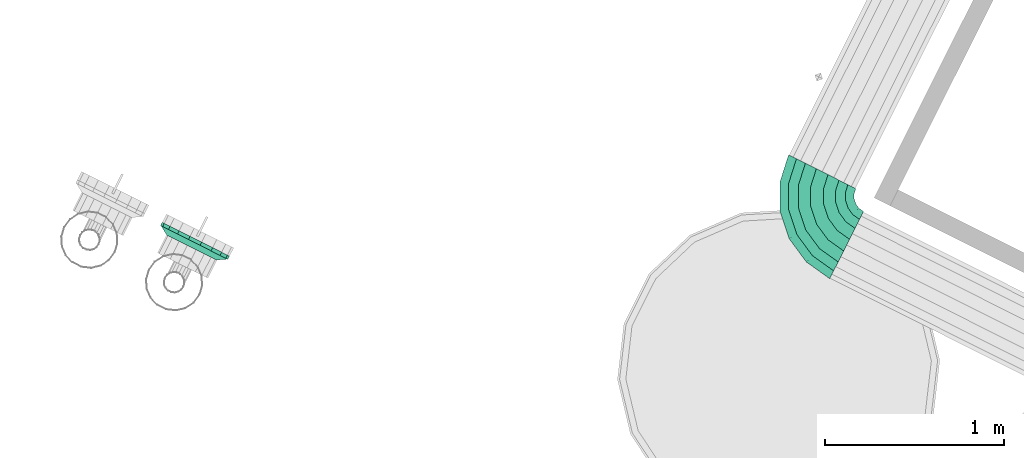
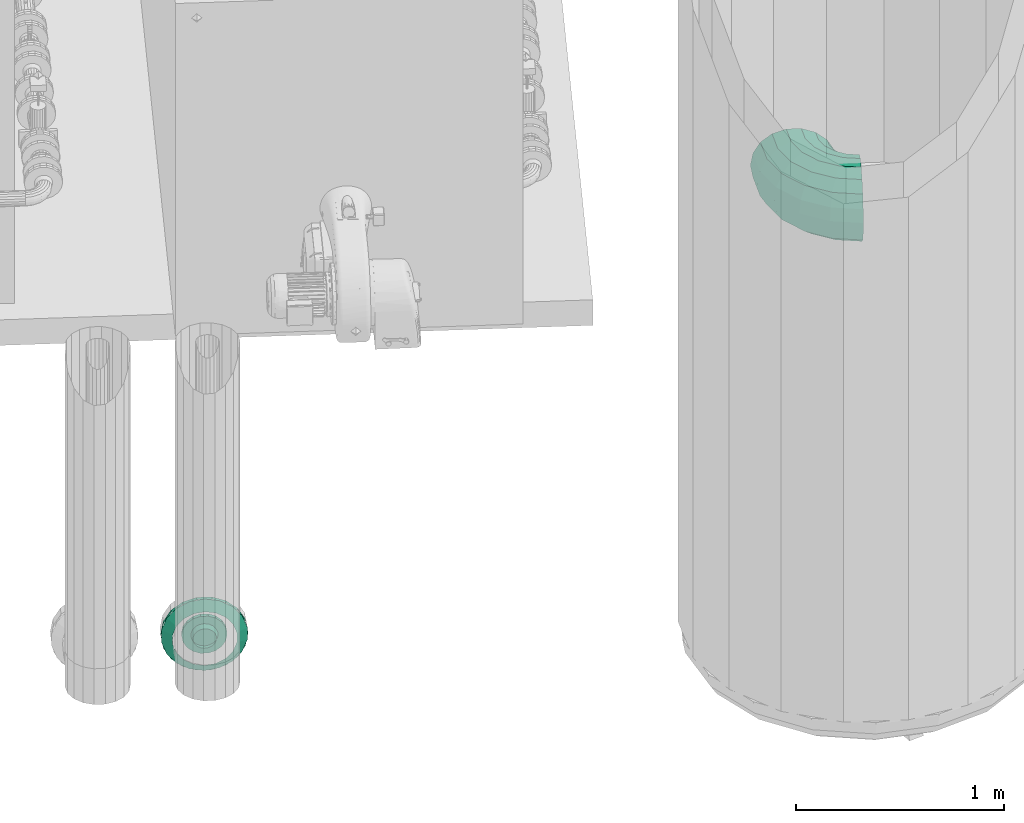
# One storey, part 41 of 206: 1 flow fitting, 1 flow segment.
"""IFC2X3 building model written with IfcOpenShell, lengths in metres."""

from ifc_helpers import new_model, si_unit, derived_unit, direction, frame, origin, place, context, subcontext, project, spatial, face_set, surface_model, source, transform, mapped, material, type_object, type_shapes, element, save


model = new_model("IFC2X3")

# Units and contexts
model_context = context("Model", 3, precision=5.2338327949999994e-05, world=origin(), true_north=direction((0.0, 1.0)))
body_context = subcontext(model_context, "Body", "Model", "MODEL_VIEW")
ifc_project = project(units=[si_unit("LENGTHUNIT", "METRE"), si_unit("AREAUNIT", "SQUARE_METRE"), si_unit("VOLUMEUNIT", "CUBIC_METRE"), si_unit("MASSUNIT", "GRAM", prefix="KILO"), si_unit("PLANEANGLEUNIT", "RADIAN"), derived_unit("THERMALTRANSMITTANCEUNIT", [(si_unit("MASSUNIT", "GRAM", prefix="KILO"), 1), (si_unit("THERMODYNAMICTEMPERATUREUNIT", "KELVIN"), -1), (si_unit("TIMEUNIT", "SECOND"), -3)])], contexts=[model_context])

# Site, building, storey
site_placement = place(None, frame((0.0, 0.0, 0.0), z_axis=(0.0, 0.0, 1.0), x_axis=(0.8939966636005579, -0.4480736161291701, 0.0)))
site = spatial("IfcSite", under=ifc_project, at=site_placement, Name="Default", CompositionType="ELEMENT")
building_placement = place(site_placement, origin())
building = spatial("IfcBuilding", under=site, at=building_placement, CompositionType="ELEMENT")
storey_placement = place(building_placement, origin())
storey = spatial("IfcBuildingStorey", under=building, at=storey_placement, Name="Erdgeschoss", CompositionType="ELEMENT", Elevation=0.0)

# Flow segment
ifc_material_1 = material(Name="IfcSurfaceStyle #9317")
distribution_element_type_1 = type_object("IfcDistributionElementType", Name="Rohrbogen 342323:Rohrbogen 342323", material=ifc_material_1)
shared_shape_1 = source(origin(), body_context, "Body", "SurfaceModel", [
    surface_model("IfcFaceBasedSurfaceModel", [(28.466998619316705, 2.7818683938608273, 2.3540000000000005), (28.473605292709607, 2.7818683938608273, 2.3165316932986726), (28.493571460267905, 2.655806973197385, 2.3165316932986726), (28.48728814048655, 2.6537653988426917, 2.3539999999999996), (28.55151553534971, 2.542085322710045, 2.3165316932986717), (28.546170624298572, 2.5382020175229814, 2.3539999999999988), (28.64176554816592, 2.4518353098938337, 2.316531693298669), (28.63788224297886, 2.4464903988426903, 2.3539999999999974), (28.755487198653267, 2.3938912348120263, 2.316531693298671), (28.753445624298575, 2.387607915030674, 2.3539999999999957), (28.881548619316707, 2.373925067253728, 2.3165316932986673), (28.881548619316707, 2.367318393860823, 2.3539999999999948), (28.492628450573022, 2.7818683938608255, 2.2835826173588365), (28.511663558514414, 2.6616854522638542, 2.2835826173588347), (28.566905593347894, 2.55326685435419, 2.2835826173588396), (28.652947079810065, 2.467225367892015, 2.283582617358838), (28.761365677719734, 2.4119833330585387, 2.2835826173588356), (28.881548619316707, 2.3929482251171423, 2.283582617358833), (28.521773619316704, 2.7818683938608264, 2.2591269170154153), (28.53938226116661, 2.6706918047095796, 2.2591269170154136), (28.590484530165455, 2.5703979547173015, 2.259126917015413), (28.67007818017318, 2.4908043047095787, 2.2591269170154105), (28.770372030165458, 2.439702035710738, 2.259126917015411), (28.881548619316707, 2.4220933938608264, 2.259126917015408), (28.55752546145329, 2.7818683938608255, 2.2461143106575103), (28.57338428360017, 2.681739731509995, 2.2461143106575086), (28.61940837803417, 2.5914123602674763, 2.2461143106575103), (28.691092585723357, 2.5197281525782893, 2.2461143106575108), (28.781419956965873, 2.4737040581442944, 2.246114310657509), (28.881548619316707, 2.4578452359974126, 2.2461143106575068), (28.59557177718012, 2.7818683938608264, 2.2461143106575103), (28.609568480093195, 2.6934966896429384, 2.2461143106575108), (28.650188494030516, 2.6137754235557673, 2.2461143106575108), (28.71345564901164, 2.5505082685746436, 2.2461143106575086), (28.793176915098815, 2.5098882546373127, 2.246114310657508), (28.881548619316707, 2.495891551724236, 2.2461143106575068), (28.631323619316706, 2.7818683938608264, 2.2591269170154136), (28.643570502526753, 2.7045446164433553, 2.2591269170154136), (28.67911234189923, 2.6347898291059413, 2.2591269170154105), (28.734470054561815, 2.579432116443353, 2.259126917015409), (28.80422484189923, 2.54389027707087, 2.2591269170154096), (28.881548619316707, 2.5316433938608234, 2.2591269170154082), (28.660468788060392, 2.7818683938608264, 2.283582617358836), (28.671289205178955, 2.7135509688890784, 2.283582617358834), (28.70269127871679, 2.6519209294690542, 2.2835826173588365), (28.751601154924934, 2.6030110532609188, 2.2835826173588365), (28.81323119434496, 2.571608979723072, 2.283582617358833), (28.881548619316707, 2.5607885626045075, 2.283582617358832), (28.679491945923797, 2.7818683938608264, 2.3165316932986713), (28.68938130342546, 2.7194294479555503, 2.3165316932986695), (28.718081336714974, 2.6631024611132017, 2.3165316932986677), (28.762782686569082, 2.6184011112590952, 2.3165316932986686), (28.819109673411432, 2.589701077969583, 2.3165316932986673), (28.881548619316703, 2.5798117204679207, 2.3165316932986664), (28.686098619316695, 2.781868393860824, 2.3539999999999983), (28.69566462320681, 2.7214710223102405, 2.3539999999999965), (28.723426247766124, 2.6669857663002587, 2.3539999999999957), (28.766665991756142, 2.623746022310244, 2.3539999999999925), (28.821151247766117, 2.5959843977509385, 2.3539999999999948), (28.881548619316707, 2.586418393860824, 2.353999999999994), (28.679491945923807, 2.7818683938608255, 2.3914683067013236), (28.689381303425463, 2.7194294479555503, 2.391468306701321), (28.718081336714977, 2.6631024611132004, 2.391468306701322), (28.762782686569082, 2.6184011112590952, 2.391468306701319), (28.81910967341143, 2.5897010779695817, 2.39146830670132), (28.881548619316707, 2.5798117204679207, 2.3914683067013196), (28.660468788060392, 2.7818683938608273, 2.424417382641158), (28.671289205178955, 2.713550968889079, 2.4244173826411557), (28.702691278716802, 2.651920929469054, 2.4244173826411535), (28.751601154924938, 2.6030110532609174, 2.424417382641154), (28.81323119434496, 2.571608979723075, 2.4244173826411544), (28.881548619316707, 2.5607885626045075, 2.424417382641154), (28.63132361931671, 2.7818683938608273, 2.4488730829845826), (28.643570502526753, 2.7045446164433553, 2.448873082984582), (28.679112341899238, 2.6347898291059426, 2.4488730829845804), (28.734470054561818, 2.5794321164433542, 2.4488730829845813), (28.80422484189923, 2.54389027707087, 2.4488730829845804), (28.881548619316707, 2.5316433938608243, 2.4488730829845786), (28.595571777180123, 2.7818683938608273, 2.4618856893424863), (28.609568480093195, 2.6934966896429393, 2.461885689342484), (28.65018849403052, 2.6137754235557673, 2.4618856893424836), (28.713455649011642, 2.550508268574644, 2.461885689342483), (28.79317691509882, 2.5098882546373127, 2.4618856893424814), (28.881548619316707, 2.4958915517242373, 2.4618856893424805), (28.557525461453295, 2.781868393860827, 2.4618856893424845), (28.57338428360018, 2.6817397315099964, 2.4618856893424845), (28.619408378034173, 2.5914123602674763, 2.461885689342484), (28.69109258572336, 2.5197281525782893, 2.4618856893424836), (28.781419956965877, 2.4737040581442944, 2.4618856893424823), (28.881548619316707, 2.4578452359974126, 2.4618856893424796), (28.521773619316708, 2.781868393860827, 2.448873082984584), (28.539382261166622, 2.67069180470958, 2.4488730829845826), (28.59048453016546, 2.5703979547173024, 2.448873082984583), (28.670078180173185, 2.4908043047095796, 2.4488730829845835), (28.77037203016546, 2.439702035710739, 2.448873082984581), (28.881548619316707, 2.422093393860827, 2.448873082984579), (28.492628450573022, 2.781868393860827, 2.4244173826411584), (28.511663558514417, 2.661685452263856, 2.4244173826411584), (28.566905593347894, 2.5532668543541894, 2.4244173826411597), (28.652947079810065, 2.467225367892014, 2.424417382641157), (28.761365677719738, 2.4119833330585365, 2.424417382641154), (28.881548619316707, 2.3929482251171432, 2.424417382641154), (28.47360529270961, 2.781868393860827, 2.3914683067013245), (28.493571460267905, 2.6558069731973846, 2.3914683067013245), (28.55151553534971, 2.542085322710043, 2.3914683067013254), (28.641765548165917, 2.451835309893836, 2.3914683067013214), (28.755487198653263, 2.3938912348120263, 2.3914683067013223), (28.881548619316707, 2.3739250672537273, 2.3914683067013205), (28.36699861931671, 2.7818683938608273, 2.3540000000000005), (28.379636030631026, 2.7818683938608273, 2.282329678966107), (28.404201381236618, 2.626768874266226, 2.282329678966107), (28.39218248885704, 2.6228636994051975, 2.3540000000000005), (28.475492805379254, 2.486851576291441, 2.282329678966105), (28.46526892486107, 2.479423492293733, 2.353999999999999), (28.586531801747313, 2.3758125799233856, 2.2823296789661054), (28.579103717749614, 2.3655886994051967, 2.3539999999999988), (28.726449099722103, 2.304521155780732, 2.2823296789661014), (28.72254392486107, 2.2925022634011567, 2.353999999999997), (28.881548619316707, 2.2799558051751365, 2.2823296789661), (28.881548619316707, 2.2673183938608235, 2.3539999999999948), (28.416024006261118, 2.781868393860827, 2.219303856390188), (28.438808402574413, 2.6380133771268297, 2.2193038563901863), (28.504931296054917, 2.508239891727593, 2.2193038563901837), (28.607920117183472, 2.4052510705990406, 2.2193038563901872), (28.73769360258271, 2.339128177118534, 2.2193038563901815), (28.881548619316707, 2.316343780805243, 2.2193038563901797), (28.471773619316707, 2.7818683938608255, 2.1725243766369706), (28.49182943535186, 2.655240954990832, 2.172524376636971), (28.550033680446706, 2.541008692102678, 2.172524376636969), (28.640688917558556, 2.4503534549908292, 2.1725243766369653), (28.754921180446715, 2.3921492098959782, 2.172524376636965), (28.881548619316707, 2.3720933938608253, 2.1725243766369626), (28.5401606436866, 2.7818683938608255, 2.1476335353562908), (28.556869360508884, 2.676373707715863, 2.1476335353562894), (28.60535994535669, 2.581205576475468, 2.1476335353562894), (28.680885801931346, 2.50567971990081, 2.147633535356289), (28.77605393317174, 2.4571891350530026, 2.147633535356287), (28.881548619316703, 2.44048041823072, 2.1476335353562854), (28.61293659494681, 2.7818683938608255, 2.1476335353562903), (28.626083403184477, 2.6988627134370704, 2.14763353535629), (28.664236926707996, 2.623982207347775, 2.147633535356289), (28.72366243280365, 2.564556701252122, 2.1476335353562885), (28.798542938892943, 2.5264031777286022, 2.147633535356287), (28.881548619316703, 2.513256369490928, 2.1476335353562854), (28.681323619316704, 2.781868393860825, 2.1725243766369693), (28.691123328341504, 2.7199954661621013, 2.1725243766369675), (28.71956319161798, 2.6641790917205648, 2.1725243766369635), (28.763859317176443, 2.619882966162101, 2.1725243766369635), (28.819675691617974, 2.5914431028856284, 2.172524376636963), (28.881548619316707, 2.581643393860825, 2.1725243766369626), (28.73707323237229, 2.7818683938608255, 2.21930385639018), (28.744144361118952, 2.7372230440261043, 2.21930385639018), (28.764665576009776, 2.6969478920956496, 2.219303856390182), (28.79662811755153, 2.664985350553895, 2.219303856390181), (28.83690326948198, 2.644464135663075, 2.219303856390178), (28.881548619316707, 2.6373930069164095, 2.219303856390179), (28.7734612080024, 2.7818683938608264, 2.2823296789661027), (28.77875138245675, 2.7484675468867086, 2.2823296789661), (28.79410406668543, 2.718336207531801, 2.282329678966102), (28.81801643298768, 2.694423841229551, 2.282329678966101), (28.848147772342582, 2.6790711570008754, 2.282329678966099), (28.881548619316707, 2.6737809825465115, 2.2823296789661), (28.786098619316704, 2.7818683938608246, 2.353999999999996), (28.790770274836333, 2.752372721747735, 2.3539999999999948), (28.804327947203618, 2.7257642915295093, 2.353999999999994), (28.825444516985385, 2.704647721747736, 2.353999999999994), (28.852052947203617, 2.6910900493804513, 2.353999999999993), (28.881548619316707, 2.6864183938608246, 2.353999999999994), (28.7734612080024, 2.781868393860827, 2.425670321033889), (28.77875138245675, 2.7484675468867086, 2.425670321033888), (28.79410406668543, 2.718336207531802, 2.425670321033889), (28.81801643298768, 2.694423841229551, 2.4256703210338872), (28.848147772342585, 2.6790711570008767, 2.4256703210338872), (28.88154861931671, 2.6737809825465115, 2.4256703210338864), (28.737073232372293, 2.7818683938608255, 2.4886961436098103), (28.744144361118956, 2.7372230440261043, 2.4886961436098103), (28.76466557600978, 2.696947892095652, 2.488696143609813), (28.79662811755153, 2.664985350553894, 2.488696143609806), (28.836903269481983, 2.644464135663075, 2.488696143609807), (28.881548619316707, 2.63739300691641, 2.4886961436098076), (28.681323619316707, 2.7818683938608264, 2.535475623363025), (28.691123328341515, 2.7199954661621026, 2.5354756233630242), (28.719563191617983, 2.664179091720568, 2.5354756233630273), (28.763859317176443, 2.6198829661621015, 2.535475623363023), (28.819675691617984, 2.591443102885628, 2.535475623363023), (28.88154861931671, 2.5816433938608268, 2.535475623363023), (28.612936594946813, 2.781868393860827, 2.5603664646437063), (28.626083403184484, 2.6988627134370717, 2.560366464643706), (28.664236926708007, 2.623982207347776, 2.5603664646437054), (28.723662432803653, 2.5645567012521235, 2.560366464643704), (28.79854293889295, 2.526403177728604, 2.5603664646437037), (28.881548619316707, 2.5132563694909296, 2.560366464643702), (28.540160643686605, 2.781868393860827, 2.5603664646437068), (28.556869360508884, 2.6763737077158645, 2.560366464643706), (28.60535994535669, 2.5812055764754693, 2.5603664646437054), (28.68088580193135, 2.5056797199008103, 2.560366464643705), (28.776053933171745, 2.457189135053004, 2.5603664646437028), (28.881548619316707, 2.4404804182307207, 2.5603664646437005), (28.471773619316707, 2.781868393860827, 2.5354756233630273), (28.491829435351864, 2.655240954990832, 2.5354756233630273), (28.550033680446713, 2.541008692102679, 2.5354756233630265), (28.64068891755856, 2.450353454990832, 2.5354756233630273), (28.754921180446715, 2.39214920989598, 2.535475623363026), (28.881548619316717, 2.3720933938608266, 2.5354756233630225), (28.416024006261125, 2.7818683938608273, 2.488696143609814), (28.438808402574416, 2.6380133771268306, 2.488696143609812), (28.50493129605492, 2.5082398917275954, 2.4886961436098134), (28.60792011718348, 2.405251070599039, 2.4886961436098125), (28.737693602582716, 2.339128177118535, 2.488696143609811), (28.88154861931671, 2.3163437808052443, 2.4886961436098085), (28.37963603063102, 2.781868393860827, 2.425670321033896), (28.404201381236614, 2.626768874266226, 2.425670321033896), (28.475492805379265, 2.4868515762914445, 2.425670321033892), (28.58653180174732, 2.3758125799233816, 2.4256703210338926), (28.726449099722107, 2.3045211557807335, 2.4256703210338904), (28.881548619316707, 2.2799558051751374, 2.425670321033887)], [face_set([[[0, 1, 2, 3]], [[3, 2, 4, 5]], [[5, 4, 6, 7]], [[7, 6, 8, 9]], [[9, 8, 10, 11]], [[1, 12, 13, 2]], [[2, 13, 14, 4]], [[4, 14, 15, 6]], [[6, 15, 16, 8]], [[8, 16, 17, 10]], [[12, 18, 19, 13]], [[13, 19, 20, 14]], [[14, 20, 21, 15]], [[15, 21, 22, 16]], [[16, 22, 23, 17]], [[18, 24, 25, 19]], [[19, 25, 26, 20]], [[20, 26, 27, 21]], [[21, 27, 28, 22]], [[22, 28, 29, 23]], [[24, 30, 31, 25]], [[25, 31, 32, 26]], [[26, 32, 33, 27]], [[27, 33, 34, 28]], [[28, 34, 35, 29]], [[30, 36, 37, 31]], [[31, 37, 38, 32]], [[32, 38, 39, 33]], [[33, 39, 40, 34]], [[34, 40, 41, 35]], [[36, 42, 43, 37]], [[37, 43, 44, 38]], [[38, 44, 45, 39]], [[39, 45, 46, 40]], [[40, 46, 47, 41]], [[42, 48, 49, 43]], [[43, 49, 50, 44]], [[44, 50, 51, 45]], [[45, 51, 52, 46]], [[46, 52, 53, 47]], [[48, 54, 55, 49]], [[49, 55, 56, 50]], [[50, 56, 57, 51]], [[51, 57, 58, 52]], [[52, 58, 59, 53]], [[54, 60, 61, 55]], [[55, 61, 62, 56]], [[56, 62, 63, 57]], [[57, 63, 64, 58]], [[58, 64, 65, 59]], [[60, 66, 67, 61]], [[61, 67, 68, 62]], [[62, 68, 69, 63]], [[63, 69, 70, 64]], [[64, 70, 71, 65]], [[66, 72, 73, 67]], [[67, 73, 74, 68]], [[68, 74, 75, 69]], [[69, 75, 76, 70]], [[70, 76, 77, 71]], [[72, 78, 79, 73]], [[73, 79, 80, 74]], [[74, 80, 81, 75]], [[75, 81, 82, 76]], [[76, 82, 83, 77]], [[78, 84, 85, 79]], [[79, 85, 86, 80]], [[80, 86, 87, 81]], [[81, 87, 88, 82]], [[82, 88, 89, 83]], [[84, 90, 91, 85]], [[85, 91, 92, 86]], [[86, 92, 93, 87]], [[87, 93, 94, 88]], [[88, 94, 95, 89]], [[90, 96, 97, 91]], [[91, 97, 98, 92]], [[92, 98, 99, 93]], [[93, 99, 100, 94]], [[94, 100, 101, 95]], [[96, 102, 103, 97]], [[97, 103, 104, 98]], [[98, 104, 105, 99]], [[99, 105, 106, 100]], [[100, 106, 107, 101]], [[102, 0, 3, 103]], [[103, 3, 5, 104]], [[104, 5, 7, 105]], [[105, 7, 9, 106]], [[106, 9, 11, 107]], [[108, 109, 110, 111]], [[111, 110, 112, 113]], [[113, 112, 114, 115]], [[115, 114, 116, 117]], [[117, 116, 118, 119]], [[109, 120, 121, 110]], [[110, 121, 122, 112]], [[112, 122, 123, 114]], [[114, 123, 124, 116]], [[116, 124, 125, 118]], [[120, 126, 127, 121]], [[121, 127, 128, 122]], [[122, 128, 129, 123]], [[123, 129, 130, 124]], [[124, 130, 131, 125]], [[126, 132, 133, 127]], [[127, 133, 134, 128]], [[128, 134, 135, 129]], [[129, 135, 136, 130]], [[130, 136, 137, 131]], [[132, 138, 139, 133]], [[133, 139, 140, 134]], [[134, 140, 141, 135]], [[135, 141, 142, 136]], [[136, 142, 143, 137]], [[138, 144, 145, 139]], [[139, 145, 146, 140]], [[140, 146, 147, 141]], [[141, 147, 148, 142]], [[142, 148, 149, 143]], [[144, 150, 151, 145]], [[145, 151, 152, 146]], [[146, 152, 153, 147]], [[147, 153, 154, 148]], [[148, 154, 155, 149]], [[150, 156, 157, 151]], [[151, 157, 158, 152]], [[152, 158, 159, 153]], [[153, 159, 160, 154]], [[154, 160, 161, 155]], [[156, 162, 163, 157]], [[157, 163, 164, 158]], [[158, 164, 165, 159]], [[159, 165, 166, 160]], [[160, 166, 167, 161]], [[162, 168, 169, 163]], [[163, 169, 170, 164]], [[164, 170, 171, 165]], [[165, 171, 172, 166]], [[166, 172, 173, 167]], [[168, 174, 175, 169]], [[169, 175, 176, 170]], [[170, 176, 177, 171]], [[171, 177, 178, 172]], [[172, 178, 179, 173]], [[174, 180, 181, 175]], [[175, 181, 182, 176]], [[176, 182, 183, 177]], [[177, 183, 184, 178]], [[178, 184, 185, 179]], [[180, 186, 187, 181]], [[181, 187, 188, 182]], [[182, 188, 189, 183]], [[183, 189, 190, 184]], [[184, 190, 191, 185]], [[186, 192, 193, 187]], [[187, 193, 194, 188]], [[188, 194, 195, 189]], [[189, 195, 196, 190]], [[190, 196, 197, 191]], [[192, 198, 199, 193]], [[193, 199, 200, 194]], [[194, 200, 201, 195]], [[195, 201, 202, 196]], [[196, 202, 203, 197]], [[198, 204, 205, 199]], [[199, 205, 206, 200]], [[200, 206, 207, 201]], [[201, 207, 208, 202]], [[202, 208, 209, 203]], [[204, 210, 211, 205]], [[205, 211, 212, 206]], [[206, 212, 213, 207]], [[207, 213, 214, 208]], [[208, 214, 215, 209]], [[210, 108, 111, 211]], [[211, 111, 113, 212]], [[212, 113, 115, 213]], [[213, 115, 117, 214]], [[214, 117, 119, 215]]])]),
])
type_shapes(distribution_element_type_1, [shared_shape_1])
flow_segment_placement = place(storey_placement, origin())
element("IfcFlowSegment", 1, at=flow_segment_placement, inside=storey, type_object=distribution_element_type_1, material=ifc_material_1, Name="Rohrbogen", ObjectType="Rohrbogen", context=body_context, shape_type="MappedRepresentation", body=[
    mapped(shared_shape_1, transform((0.0, 0.0, 0.0), scale=1.0)),
])

# Flow fitting
ifc_material_2 = material(Name="IfcSurfaceStyle #1741")
distribution_element_type_2 = type_object("IfcDistributionElementType", Name="Flansch 351783:Flansch 351783", material=ifc_material_2)
shared_shape_2 = source(origin(), body_context, "Body", "SurfaceModel", [
    surface_model("IfcFaceBasedSurfaceModel", [(25.62429999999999, 0.8288727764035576, 1.1115606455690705), (25.643846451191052, 0.8288727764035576, 1.108114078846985), (25.646702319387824, 0.8608727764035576, 1.1159605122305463), (25.62429999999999, 0.8608727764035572, 1.1199106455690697), (25.66103531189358, 0.8288727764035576, 1.098190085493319), (25.66640258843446, 0.8608727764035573, 1.1045865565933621), (25.673793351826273, 0.828872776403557, 1.0829856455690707), (25.681024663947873, 0.8608727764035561, 1.0871606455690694), (25.680581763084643, 0.8288727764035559, 1.064334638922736), (25.6888049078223, 0.860872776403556, 1.0657846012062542), (25.680581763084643, 0.8288727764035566, 1.0444866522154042), (25.688804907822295, 0.860872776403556, 1.0430366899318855), (25.673793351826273, 0.8288727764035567, 1.0258356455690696), (25.681024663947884, 0.8608727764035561, 1.02166064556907), (25.661035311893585, 0.8288727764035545, 1.0106312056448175), (25.666402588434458, 0.8608727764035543, 1.0042347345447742), (25.643846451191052, 0.8288727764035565, 1.0007072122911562), (25.646702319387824, 0.8608727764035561, 0.9928607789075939), (25.624299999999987, 0.8288727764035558, 0.9972606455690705), (25.624299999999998, 0.8608727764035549, 0.9889106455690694), (25.60475354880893, 0.8288727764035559, 1.0007072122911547), (25.60189768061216, 0.8608727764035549, 0.9928607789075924), (25.58756468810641, 0.8288727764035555, 1.0106312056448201), (25.582197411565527, 0.8608727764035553, 1.0042347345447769), (25.57480664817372, 0.8288727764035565, 1.0258356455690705), (25.567575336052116, 0.8608727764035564, 1.021660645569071), (25.568018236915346, 0.8288727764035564, 1.0444866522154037), (25.559795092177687, 0.8608727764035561, 1.043036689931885), (25.568018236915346, 0.8288727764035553, 1.0643346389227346), (25.55979509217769, 0.8608727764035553, 1.0657846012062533), (25.574806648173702, 0.8288727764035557, 1.0829856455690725), (25.567575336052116, 0.8608727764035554, 1.087160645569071), (25.58756468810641, 0.8288727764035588, 1.098190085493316), (25.582197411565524, 0.8608727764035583, 1.1045865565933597), (25.60475354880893, 0.8288727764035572, 1.1081140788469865), (25.601897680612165, 0.8608727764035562, 1.1159605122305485), (25.514299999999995, 0.8608727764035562, 1.05441064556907), (25.52093381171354, 0.8608727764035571, 1.092032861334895), (25.52093381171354, 0.880872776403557, 1.092032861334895), (25.514299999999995, 0.8808727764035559, 1.0544106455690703), (25.540035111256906, 0.8608727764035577, 1.1251172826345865), (25.540035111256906, 0.8808727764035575, 1.125117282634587), (25.56929999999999, 0.8608727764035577, 1.1496734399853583), (25.569299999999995, 0.8808727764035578, 1.1496734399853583), (25.605198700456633, 0.8608727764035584, 1.1627394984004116), (25.60519870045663, 0.8808727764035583, 1.162739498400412), (25.643401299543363, 0.8608727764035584, 1.1627394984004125), (25.64340129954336, 0.8808727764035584, 1.162739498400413), (25.679299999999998, 0.8608727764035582, 1.1496734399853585), (25.679299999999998, 0.8808727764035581, 1.1496734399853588), (25.708564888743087, 0.8608727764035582, 1.1251172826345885), (25.708564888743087, 0.8808727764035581, 1.125117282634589), (25.72766618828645, 0.8608727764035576, 1.0920328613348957), (25.72766618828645, 0.8808727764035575, 1.0920328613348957), (25.734299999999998, 0.8608727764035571, 1.0544106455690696), (25.734299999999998, 0.8808727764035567, 1.0544106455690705), (25.727666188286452, 0.8608727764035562, 1.0167884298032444), (25.727666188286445, 0.8808727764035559, 1.0167884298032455), (25.708564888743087, 0.8608727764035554, 0.9837040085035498), (25.708564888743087, 0.8808727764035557, 0.9837040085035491), (25.679299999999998, 0.8608727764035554, 0.9591478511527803), (25.679299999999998, 0.8808727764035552, 0.9591478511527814), (25.643401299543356, 0.8608727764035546, 0.9460817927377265), (25.64340129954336, 0.8808727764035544, 0.9460817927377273), (25.60519870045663, 0.8608727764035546, 0.9460817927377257), (25.60519870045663, 0.8808727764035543, 0.9460817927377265), (25.569299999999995, 0.8608727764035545, 0.9591478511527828), (25.56929999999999, 0.8808727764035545, 0.9591478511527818), (25.540035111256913, 0.860872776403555, 0.983704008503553), (25.540035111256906, 0.8808727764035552, 0.9837040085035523), (25.520933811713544, 0.8608727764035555, 1.0167884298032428), (25.520933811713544, 0.8808727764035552, 1.0167884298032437), (25.62429999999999, 0.8608727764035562, 1.0544106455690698), (25.62429999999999, 0.8288727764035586, 1.2115606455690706), (25.67804846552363, 0.8288727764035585, 1.2020833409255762), (25.696124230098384, 0.8608727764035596, 1.2517460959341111), (25.624299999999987, 0.8608727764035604, 1.2644106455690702), (25.725314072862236, 0.8288727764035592, 1.1747945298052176), (25.75928539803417, 0.8608727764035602, 1.2152799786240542), (25.760395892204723, 0.8288727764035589, 1.1329856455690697), (25.806165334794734, 0.8608727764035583, 1.1594106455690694), (25.77906253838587, 0.828872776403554, 1.0816994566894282), (25.83110962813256, 0.8608727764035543, 1.0908767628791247), (25.77906253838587, 0.828872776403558, 1.027121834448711), (25.83110962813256, 0.8608727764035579, 1.0179445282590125), (25.76039589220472, 0.8288727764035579, 0.9758356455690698), (25.806165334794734, 0.860872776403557, 0.9494106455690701), (25.725314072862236, 0.8288727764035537, 0.9340267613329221), (25.759285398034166, 0.8608727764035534, 0.8935413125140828), (25.67804846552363, 0.8288727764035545, 0.9067379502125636), (25.696124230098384, 0.8608727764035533, 0.8570751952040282), (25.62429999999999, 0.8288727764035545, 0.8972606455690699), (25.624299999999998, 0.860872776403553, 0.8444106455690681), (25.570551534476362, 0.8288727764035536, 0.9067379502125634), (25.552475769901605, 0.8608727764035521, 0.857075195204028), (25.523285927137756, 0.8288727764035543, 0.9340267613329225), (25.489314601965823, 0.860872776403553, 0.8935413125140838), (25.48820410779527, 0.828872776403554, 0.9758356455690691), (25.44243466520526, 0.8608727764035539, 0.949410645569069), (25.469537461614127, 0.8288727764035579, 1.0271218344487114), (25.417490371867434, 0.8608727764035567, 1.0179445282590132), (25.469537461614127, 0.8288727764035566, 1.0816994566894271), (25.417490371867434, 0.860872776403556, 1.0908767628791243), (25.48820410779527, 0.828872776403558, 1.1329856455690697), (25.44243466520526, 0.860872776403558, 1.1594106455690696), (25.523285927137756, 0.8288727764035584, 1.1747945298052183), (25.489314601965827, 0.8608727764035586, 1.215279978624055), (25.570551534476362, 0.8288727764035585, 1.2020833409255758), (25.552475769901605, 0.860872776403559, 1.2517460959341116), (25.414299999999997, 0.8608727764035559, 1.054410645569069), (25.426964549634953, 0.8608727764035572, 1.1262348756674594), (25.426964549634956, 0.8808727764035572, 1.12623487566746), (25.4143, 0.8808727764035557, 1.0544106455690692), (25.46343066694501, 0.8608727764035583, 1.1893960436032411), (25.46343066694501, 0.8808727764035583, 1.1893960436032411), (25.519299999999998, 0.8608727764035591, 1.2362759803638), (25.519299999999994, 0.8808727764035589, 1.2362759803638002), (25.587833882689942, 0.8608727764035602, 1.2612202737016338), (25.587833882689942, 0.8808727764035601, 1.2612202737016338), (25.66076611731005, 0.8608727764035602, 1.2612202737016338), (25.66076611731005, 0.8808727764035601, 1.2612202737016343), (25.7293, 0.8608727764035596, 1.2362759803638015), (25.7293, 0.8808727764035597, 1.2362759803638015), (25.785169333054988, 0.860872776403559, 1.1893960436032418), (25.785169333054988, 0.8808727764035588, 1.1893960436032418), (25.821635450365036, 0.8608727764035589, 1.1262348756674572), (25.821635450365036, 0.8808727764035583, 1.126234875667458), (25.834299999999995, 0.8608727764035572, 1.0544106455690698), (25.834299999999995, 0.8808727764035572, 1.0544106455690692), (25.82163545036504, 0.8608727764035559, 0.9825864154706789), (25.82163545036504, 0.8808727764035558, 0.9825864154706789), (25.78516933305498, 0.8608727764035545, 0.9194252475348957), (25.78516933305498, 0.8808727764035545, 0.9194252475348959), (25.7293, 0.8608727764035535, 0.872545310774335), (25.729299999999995, 0.8808727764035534, 0.872545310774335), (25.66076611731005, 0.8608727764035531, 0.8476010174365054), (25.66076611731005, 0.8808727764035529, 0.8476010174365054), (25.587833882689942, 0.8608727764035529, 0.8476010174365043), (25.587833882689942, 0.8808727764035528, 0.8476010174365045), (25.519299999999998, 0.8608727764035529, 0.8725453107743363), (25.519299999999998, 0.8808727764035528, 0.8725453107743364), (25.46343066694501, 0.860872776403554, 0.9194252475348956), (25.46343066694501, 0.8808727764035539, 0.9194252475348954), (25.426964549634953, 0.8608727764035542, 0.9825864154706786), (25.426964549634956, 0.8808727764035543, 0.9825864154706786)], [face_set([[[0, 1, 2, 3]], [[1, 4, 5, 2]], [[4, 6, 7, 5]], [[6, 8, 9, 7]], [[8, 10, 11, 9]], [[10, 12, 13, 11]], [[12, 14, 15, 13]], [[14, 16, 17, 15]], [[16, 18, 19, 17]], [[18, 20, 21, 19]], [[20, 22, 23, 21]], [[22, 24, 25, 23]], [[24, 26, 27, 25]], [[26, 28, 29, 27]], [[28, 30, 31, 29]], [[30, 32, 33, 31]], [[32, 34, 35, 33]], [[34, 0, 3, 35]], [[36, 37, 38, 39]], [[37, 40, 41, 38]], [[40, 42, 43, 41]], [[42, 44, 45, 43]], [[44, 46, 47, 45]], [[46, 48, 49, 47]], [[48, 50, 51, 49]], [[50, 52, 53, 51]], [[52, 54, 55, 53]], [[54, 56, 57, 55]], [[56, 58, 59, 57]], [[58, 60, 61, 59]], [[60, 62, 63, 61]], [[62, 64, 65, 63]], [[64, 66, 67, 65]], [[66, 68, 69, 67]], [[68, 70, 71, 69]], [[70, 36, 39, 71]], [[72, 37, 36]], [[72, 40, 37]], [[72, 42, 40]], [[72, 44, 42]], [[72, 46, 44]], [[72, 48, 46]], [[72, 50, 48]], [[72, 52, 50]], [[72, 54, 52]], [[72, 56, 54]], [[72, 58, 56]], [[72, 60, 58]], [[72, 62, 60]], [[72, 64, 62]], [[72, 66, 64]], [[72, 68, 66]], [[72, 70, 68]], [[72, 36, 70]], [[73, 74, 75, 76]], [[74, 77, 78, 75]], [[77, 79, 80, 78]], [[79, 81, 82, 80]], [[81, 83, 84, 82]], [[83, 85, 86, 84]], [[85, 87, 88, 86]], [[87, 89, 90, 88]], [[89, 91, 92, 90]], [[91, 93, 94, 92]], [[93, 95, 96, 94]], [[95, 97, 98, 96]], [[97, 99, 100, 98]], [[99, 101, 102, 100]], [[101, 103, 104, 102]], [[103, 105, 106, 104]], [[105, 107, 108, 106]], [[107, 73, 76, 108]], [[109, 110, 111, 112]], [[110, 113, 114, 111]], [[113, 115, 116, 114]], [[115, 117, 118, 116]], [[117, 119, 120, 118]], [[119, 121, 122, 120]], [[121, 123, 124, 122]], [[123, 125, 126, 124]], [[125, 127, 128, 126]], [[127, 129, 130, 128]], [[129, 131, 132, 130]], [[131, 133, 134, 132]], [[133, 135, 136, 134]], [[135, 137, 138, 136]], [[137, 139, 140, 138]], [[139, 141, 142, 140]], [[141, 143, 144, 142]], [[143, 109, 112, 144]]])]),
])
type_shapes(distribution_element_type_2, [shared_shape_2])
flow_fitting_placement = place(storey_placement, origin())
element("IfcFlowFitting", 2, at=flow_fitting_placement, inside=storey, type_object=distribution_element_type_2, material=ifc_material_2, Name="Flansch", ObjectType="Flansch", context=body_context, shape_type="MappedRepresentation", body=[
    mapped(shared_shape_2, transform((0.0, 0.0, 0.0), scale=1.0)),
])

save(model, "model.ifc")
